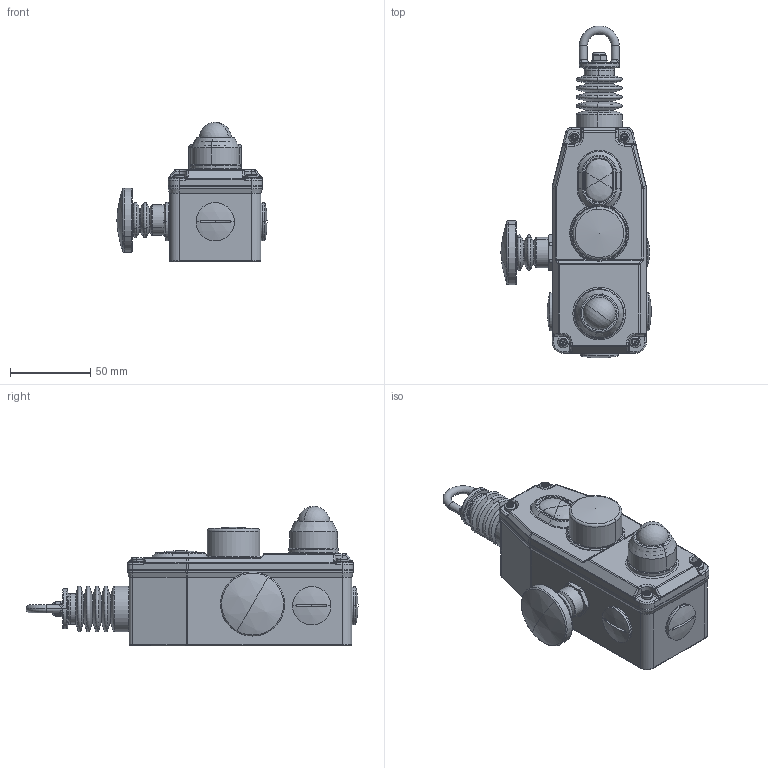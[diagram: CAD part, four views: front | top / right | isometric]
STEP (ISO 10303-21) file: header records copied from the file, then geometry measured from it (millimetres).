
FILE_DESCRIPTION (( 'STEP AP203' ), '1' );
FILE_NAME ('GLM-SS with LED and E Stop.STEP', '2023-07-06T07:49:19', ( '' ), ( '' ), 'SwSTEP 2.0', 'SolidWorks 2021', '' );
FILE_SCHEMA (( 'CONFIG_CONTROL_DESIGN' ));
Length unit declared in the file: millimetre
Products named in the file (1): GLM-SS with LED and E Stop
Bounding box: 93.89 x 207.49 x 87.1 mm (x, y, z)
Volume: 191735.9 mm3; surface area: 126710.5 mm2
Topology: 25 solids, 25 shells, 2674 faces, 6079 edges, 3483 vertices
Faces by surface type: cylinder 1053, torus 681, plane 532, cone 257, bspline 89, sphere 62
Entity records: 78332 total; most frequent: CARTESIAN_POINT 17642, DIRECTION 14060, ORIENTED_EDGE 12020, EDGE_CURVE 6010, AXIS2_PLACEMENT_3D 5928, VERTEX_POINT 3481, CIRCLE 3342, EDGE_LOOP 2827
